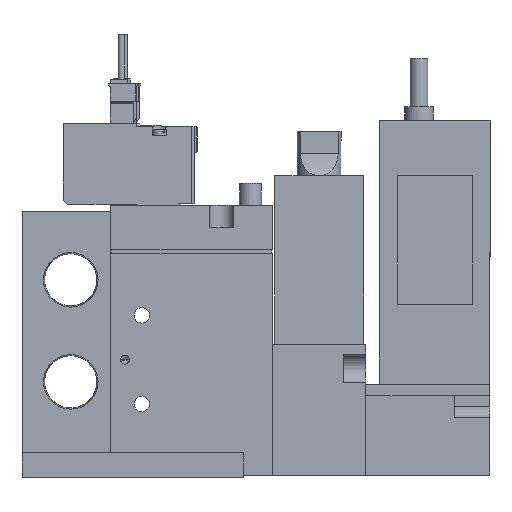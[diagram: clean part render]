
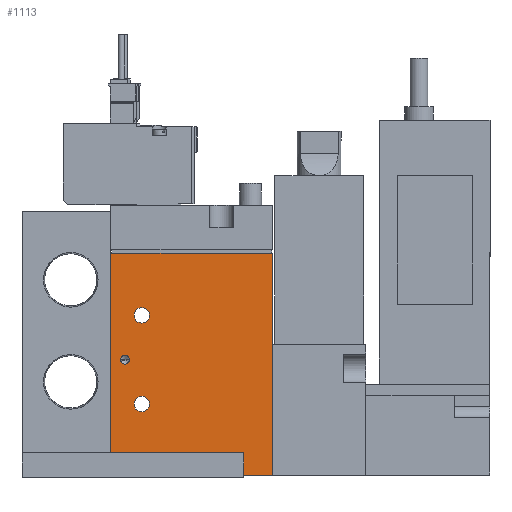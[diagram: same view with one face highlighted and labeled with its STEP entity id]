
A CAD part, left-side view. The second image highlights one B-rep face of the part: STEP entity #1113.
In plain terms, the highlighted planar face has unit normal (-1, 0, 0) as drawn and (1, 0, 0) by its records, which use the part's own axes.
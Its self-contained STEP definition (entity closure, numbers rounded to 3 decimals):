
#1113=ADVANCED_FACE('',(#1814,#1815,#1816,#1817),#1818,.F.);
#1814=FACE_BOUND('',#2861,.T.);
#1815=FACE_BOUND('',#2862,.T.);
#1816=FACE_BOUND('',#2863,.T.);
#1817=FACE_OUTER_BOUND('',#2864,.T.);
#1818=PLANE('',#2865);
#2861=EDGE_LOOP('',(#4509));
#2862=EDGE_LOOP('',(#4510));
#2863=EDGE_LOOP('',(#4511));
#2864=EDGE_LOOP('',(#4512,#4513,#4514,#4515));
#2865=AXIS2_PLACEMENT_3D('',#4516,#4517,#4518);
#4509=ORIENTED_EDGE('',*,*,#7162,.F.);
#4510=ORIENTED_EDGE('',*,*,#7172,.T.);
#4511=ORIENTED_EDGE('',*,*,#7153,.T.);
#4512=ORIENTED_EDGE('',*,*,#7166,.T.);
#4513=ORIENTED_EDGE('',*,*,#7173,.F.);
#4514=ORIENTED_EDGE('',*,*,#7174,.F.);
#4515=ORIENTED_EDGE('',*,*,#7170,.T.);
#4516=CARTESIAN_POINT('',(8.5,-19.444,50.0));
#4517=DIRECTION('',(-1.0,0.0,0.0));
#4518=DIRECTION('',(0.0,0.0,1.0));
#7153=EDGE_CURVE('',#8381,#8381,#8382,.T.);
#7162=EDGE_CURVE('',#8399,#8399,#8400,.T.);
#7166=EDGE_CURVE('',#8407,#8405,#8408,.T.);
#7170=EDGE_CURVE('',#8412,#8407,#8413,.T.);
#7172=EDGE_CURVE('',#8415,#8415,#8416,.T.);
#7173=EDGE_CURVE('',#8417,#8405,#8418,.T.);
#7174=EDGE_CURVE('',#8412,#8417,#8419,.T.);
#8381=VERTEX_POINT('',#10362);
#8382=CIRCLE('',#10363,1.75);
#8399=VERTEX_POINT('',#10384);
#8400=CIRCLE('',#10385,1.0);
#8405=VERTEX_POINT('',#10390);
#8407=VERTEX_POINT('',#10393);
#8408=LINE('',#10394,#10395);
#8412=VERTEX_POINT('',#10400);
#8413=LINE('',#10401,#10402);
#8415=VERTEX_POINT('',#10405);
#8416=CIRCLE('',#10406,1.75);
#8417=VERTEX_POINT('',#10407);
#8418=LINE('',#10408,#10409);
#8419=LINE('',#10410,#10411);
#10362=CARTESIAN_POINT('',(8.5,-10.694,16.0));
#10363=AXIS2_PLACEMENT_3D('',#12738,#12739,#12740);
#10384=CARTESIAN_POINT('',(8.5,-17.244,26.0));
#10385=AXIS2_PLACEMENT_3D('',#12757,#12758,#12759);
#10390=CARTESIAN_POINT('',(8.5,17.056,0.0));
#10393=CARTESIAN_POINT('',(8.5,-19.444,0.0));
#10394=CARTESIAN_POINT('',(8.5,-19.444,0.0));
#10395=VECTOR('',#12767,1.0);
#10400=CARTESIAN_POINT('',(8.5,-19.444,50.0));
#10401=CARTESIAN_POINT('',(8.5,-19.444,50.0));
#10402=VECTOR('',#12772,1.0);
#10405=CARTESIAN_POINT('',(8.5,-10.694,36.0));
#10406=AXIS2_PLACEMENT_3D('',#12774,#12775,#12776);
#10407=CARTESIAN_POINT('',(8.5,17.056,50.0));
#10408=CARTESIAN_POINT('',(8.5,17.056,50.0));
#10409=VECTOR('',#12777,1.0);
#10410=CARTESIAN_POINT('',(8.5,-19.444,50.0));
#10411=VECTOR('',#12778,1.0);
#12738=CARTESIAN_POINT('',(8.5,-12.444,16.0));
#12739=DIRECTION('',(-1.0,0.0,0.0));
#12740=DIRECTION('',(0.0,1.0,0.0));
#12757=CARTESIAN_POINT('',(8.5,-16.244,26.0));
#12758=DIRECTION('',(1.0,0.,0.0));
#12759=DIRECTION('',(0.,-1.0,0.0));
#12767=DIRECTION('',(0.0,1.0,0.0));
#12772=DIRECTION('',(0.0,0.0,-1.0));
#12774=CARTESIAN_POINT('',(8.5,-12.444,36.0));
#12775=DIRECTION('',(-1.0,0.0,0.0));
#12776=DIRECTION('',(0.0,1.0,0.0));
#12777=DIRECTION('',(0.0,0.0,-1.0));
#12778=DIRECTION('',(0.0,1.0,0.0));
